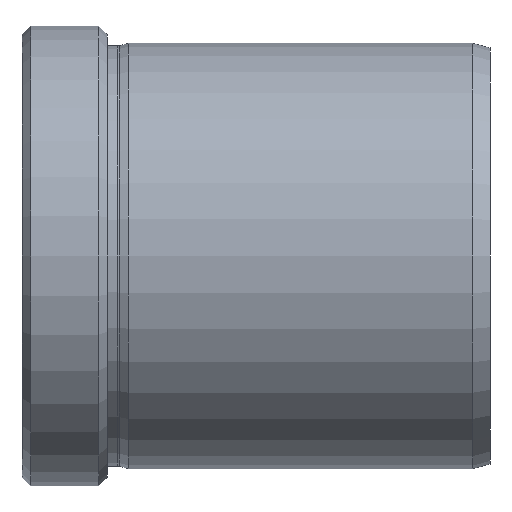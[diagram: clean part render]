
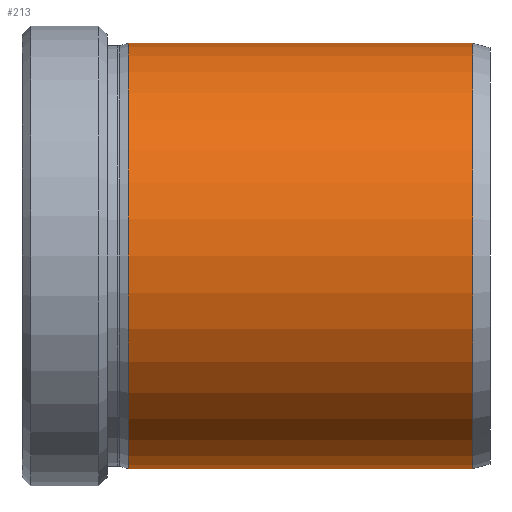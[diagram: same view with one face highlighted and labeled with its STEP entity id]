
A CAD part, front view. The second image highlights one B-rep face of the part: STEP entity #213.
In plain terms, the highlighted cylindrical face has radius 25 mm (diameter 50 mm), a partial arc.
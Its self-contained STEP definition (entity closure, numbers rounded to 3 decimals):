
#1 = DIRECTION ( 'NONE',  ( -1., 0., 0. ) ) ;
#15 = DIRECTION ( 'NONE',  ( 0., 0., 1. ) ) ;
#23 = CARTESIAN_POINT ( 'NONE',  ( 63.8, 0., 25. ) ) ;
#40 = CARTESIAN_POINT ( 'NONE',  ( 23.3, 0., 0. ) ) ;
#46 = EDGE_CURVE ( 'NONE', #500, #435, #471, .T. ) ;
#47 = EDGE_CURVE ( 'NONE', #495, #435, #584, .T. ) ;
#144 = DIRECTION ( 'NONE',  ( -1., 0., 0. ) ) ;
#170 = VERTEX_POINT ( 'NONE', #311 ) ;
#171 = AXIS2_PLACEMENT_3D ( 'NONE', #461, #455, #575 ) ;
#183 = CARTESIAN_POINT ( 'NONE',  ( 0., 0., -25. ) ) ;
#186 = VECTOR ( 'NONE', #492, 1000. ) ;
#213 = ADVANCED_FACE ( 'NONE', ( #383 ), #373, .T. ) ;
#237 = LINE ( 'NONE', #183, #186 ) ;
#259 = CARTESIAN_POINT ( 'NONE',  ( 0., 0., 25. ) ) ;
#265 = EDGE_CURVE ( 'NONE', #170, #495, #335, .T. ) ;
#291 = EDGE_CURVE ( 'NONE', #170, #500, #237, .T. ) ;
#294 = CARTESIAN_POINT ( 'NONE',  ( 23.3, 0., 25. ) ) ;
#295 = EDGE_LOOP ( 'NONE', ( #482, #351, #579, #597 ) ) ;
#296 = AXIS2_PLACEMENT_3D ( 'NONE', #40, #1, #15 ) ;
#311 = CARTESIAN_POINT ( 'NONE',  ( 63.8, 0., -25. ) ) ;
#335 = CIRCLE ( 'NONE', #462, 25. ) ;
#351 = ORIENTED_EDGE ( 'NONE', *, *, #265, .T. ) ;
#358 = VECTOR ( 'NONE', #458, 1000. ) ;
#373 = CYLINDRICAL_SURFACE ( 'NONE', #171, 25. ) ;
#383 = FACE_OUTER_BOUND ( 'NONE', #295, .T. ) ;
#435 = VERTEX_POINT ( 'NONE', #294 ) ;
#436 = CARTESIAN_POINT ( 'NONE',  ( 23.3, 0., -25. ) ) ;
#455 = DIRECTION ( 'NONE',  ( -1., 0., 0. ) ) ;
#458 = DIRECTION ( 'NONE',  ( -1., 0., 0. ) ) ;
#461 = CARTESIAN_POINT ( 'NONE',  ( 0., 0., 0. ) ) ;
#462 = AXIS2_PLACEMENT_3D ( 'NONE', #585, #144, #644 ) ;
#471 = CIRCLE ( 'NONE', #296, 25. ) ;
#482 = ORIENTED_EDGE ( 'NONE', *, *, #291, .F. ) ;
#492 = DIRECTION ( 'NONE',  ( -1., 0., 0. ) ) ;
#495 = VERTEX_POINT ( 'NONE', #23 ) ;
#500 = VERTEX_POINT ( 'NONE', #436 ) ;
#575 = DIRECTION ( 'NONE',  ( 0., 0., 1. ) ) ;
#579 = ORIENTED_EDGE ( 'NONE', *, *, #47, .T. ) ;
#584 = LINE ( 'NONE', #259, #358 ) ;
#585 = CARTESIAN_POINT ( 'NONE',  ( 63.8, 0., 0. ) ) ;
#597 = ORIENTED_EDGE ( 'NONE', *, *, #46, .F. ) ;
#644 = DIRECTION ( 'NONE',  ( 0., 0., 1. ) ) ;
